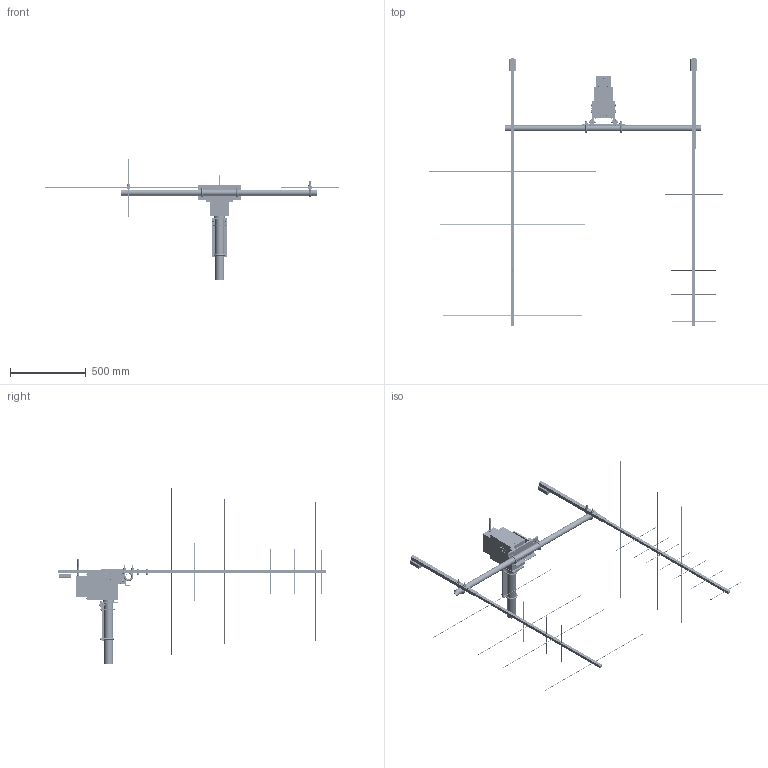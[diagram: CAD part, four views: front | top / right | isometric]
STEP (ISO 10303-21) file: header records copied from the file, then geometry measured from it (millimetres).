
FILE_DESCRIPTION(('FreeCAD Model'),'2;1');
FILE_NAME('Open CASCADE Shape Model','2026-11-18T07:53:23',('FreeCAD'),( 'FreeCAD'),'Open CASCADE STEP processor 7.8','FreeCAD','Unknown');
FILE_SCHEMA(('AUTOMOTIVE_DESIGN { 1 0 10303 214 1 1 1 1 }'));
Length unit declared in the file: millimetre
Products named in the file (1): Open CASCADE STEP translator 7.8 25
Bounding box: 1945 x 1772 x 1163.49 mm (x, y, z)
Volume: 5837774 mm3; surface area: 2564075.9 mm2
Topology: 663 solids, 666 shells, 28206 faces, 66434 edges, 39807 vertices
Faces by surface type: plane 9806, bspline 7681, cylinder 7438, torus 1232, cone 1062, sphere 834, revolution 153
Full cylindrical faces by diameter (mm): 0.5 x2, 0.55 x1, 0.8 x16, 1.7 x1, 1.78 x1, 1.92 x2, 2.5 x50, 2.52 x32, 3 x58, 4 x22, 4.2 x8, 4.5 x108, 4.52 x45, 5 x612, 5.3 x44, 5.467 x8, 5.6 x28, 6 x420, 6.4 x28, 6.667 x12, 6.75 x12, 7 x12, 7.5 x4, 7.992 x8, 8 x402, 8.376 x4, 8.4 x24, 8.5 x34, 8.833 x12, 9.5 x11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
Entity records: 1491940 total; most frequent: CARTESIAN_POINT 906295, ORIENTED_EDGE 131740, DIRECTION 104874, EDGE_CURVE 65870, VERTEX_POINT 39797, AXIS2_PLACEMENT_3D 38107, FACE_BOUND 30105, EDGE_LOOP 30105
